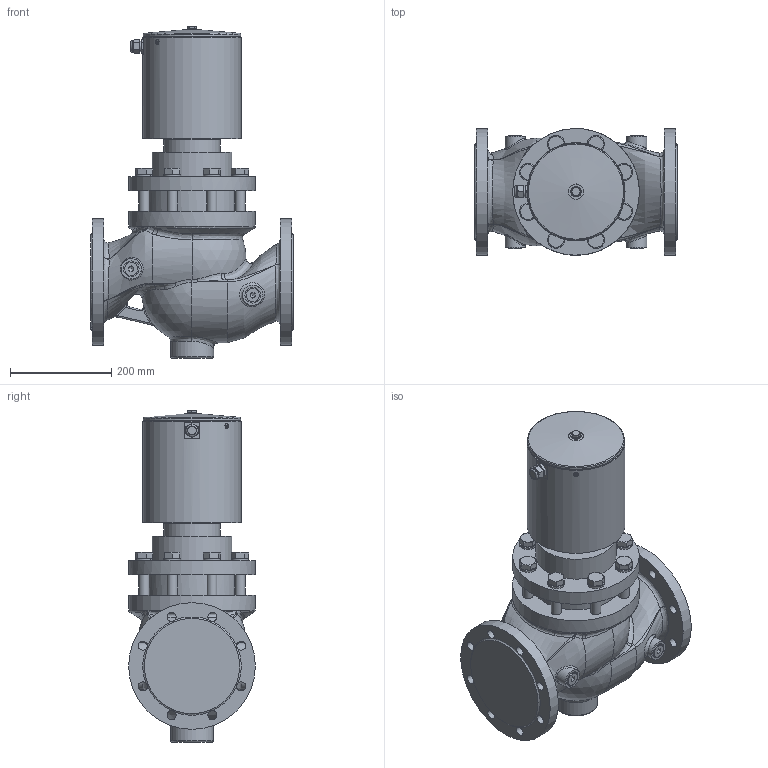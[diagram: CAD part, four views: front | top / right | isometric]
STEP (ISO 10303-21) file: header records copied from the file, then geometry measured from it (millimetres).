
FILE_DESCRIPTION((''),'2;1');
FILE_NAME('G:\CAD-Download\EVSA\4und10-EVSA\DN 125\4_10-EVSA 125H-4.Av.00.32.stp','2009-11-11T15:08:05',('hb'),(''),'Autodesk Inventor 2008','Autodesk Inventor 2008','');
FILE_SCHEMA(('AUTOMOTIVE_DESIGN { 1 0 10303 214 1 1 1 1 }'));
Length unit declared in the file: millimetre
Products named in the file (1): 4_10-EVSA 125H-4.Av.00
Bounding box: 400 x 250 x 655.4 mm (x, y, z)
Volume: 24523828.2 mm3; surface area: 865595.3 mm2
Topology: 1 solids, 1 shells, 442 faces, 1107 edges, 687 vertices
Faces by surface type: plane 182, bspline 105, cylinder 82, cone 66, torus 5, sphere 2
Full cylindrical faces by diameter (mm): 14.63 x1, 18 x8, 20 x17, 23.713 x1, 26 x4, 28.19 x8, 40 x4, 85 x1, 93 x1, 111 x1, 158 x1, 176 x1, 189 x1, 193.7 x1, 250 x3
Entity records: 26389 total; most frequent: CARTESIAN_POINT 16751, ORIENTED_EDGE 1916, DIRECTION 1716, EDGE_CURVE 958, AXIS2_PLACEMENT_3D 722, VERTEX_POINT 633, EDGE_LOOP 623, FACE_OUTER_BOUND 442
